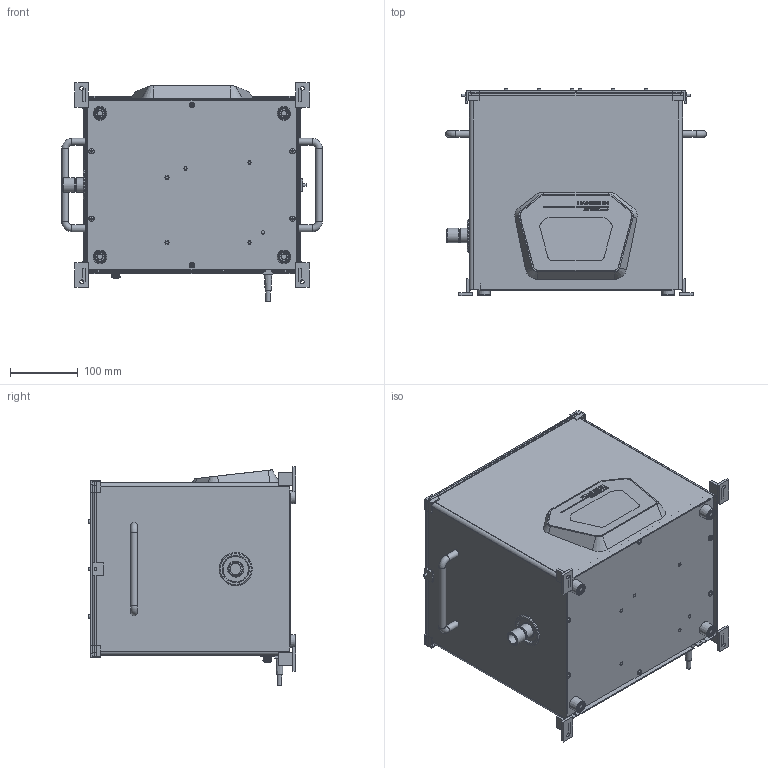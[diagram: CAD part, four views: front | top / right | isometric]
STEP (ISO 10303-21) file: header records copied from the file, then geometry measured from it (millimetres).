
FILE_DESCRIPTION(('Open CASCADE Model'),'2;1');
FILE_NAME('Open CASCADE Shape Model','2026-11-06T02:18:40',('Author'),( 'Open CASCADE'),'Open CASCADE STEP processor 7.8','Open CASCADE 7.8' ,'Unknown');
FILE_SCHEMA(('AUTOMOTIVE_DESIGN { 1 0 10303 214 1 1 1 1 }'));
Length unit declared in the file: millimetre
Products named in the file (44): Sonicator_Two_Racks_Preview_R02; Manufacturer_REFERENCE_shells; Left_independent_top_plate; Left_Guide_01; Left_M3_screw_envelope_00; Left_washer_envelope_00; Left_Guide_02; Left_M3_screw_envelope_01; Left_washer_envelope_01; Left_Guide_03; Left_M3_screw_envelope_02; Left_washer_envelope_02; Left_Guide_04; Left_M3_screw_envelope_03; Left_washer_envelope_03; Left_Rack_REFERENCE_uploaded_r20; Left_locator_-1; Left_locator_1; Left_clamp_pad_CONCEPT; Left_clamp_tab_CONCEPT; Left_clamp_screw_CONCEPT; Right_independent_top_plate; Right_Guide_01; Right_M3_screw_envelope_00; Right_washer_envelope_00; Right_Guide_02; Right_M3_screw_envelope_01; Right_washer_envelope_01; Right_Guide_03; Right_M3_screw_envelope_02; Right_washer_envelope_02; Right_Guide_04; Right_M3_screw_envelope_03; Right_washer_envelope_03; Right_Rack_REFERENCE_uploaded_r20; Right_locator_-1; Right_locator_1; Right_clamp_pad_CONCEPT; Right_clamp_tab_CONCEPT; Right_clamp_screw_CONCEPT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
Assembly tree (43 placements, depth 2):
  Sonicator_Two_Racks_Preview_R02
    Manufacturer_REFERENCE_shells
    Left_independent_top_plate
    Left_Guide_01
    Left_M3_screw_envelope_00
    Left_washer_envelope_00
    Left_Guide_02
    Left_M3_screw_envelope_01
    Left_washer_envelope_01
    Left_Guide_03
    Left_M3_screw_envelope_02
    Left_washer_envelope_02
    Left_Guide_04
    Left_M3_screw_envelope_03
    Left_washer_envelope_03
    Left_Rack_REFERENCE_uploaded_r20
    Left_locator_-1
    Left_locator_1
    Left_clamp_pad_CONCEPT
    Left_clamp_tab_CONCEPT
    Left_clamp_screw_CONCEPT
    Right_independent_top_plate
    Right_Guide_01
    Right_M3_screw_envelope_00
    Right_washer_envelope_00
    Right_Guide_02
    Right_M3_screw_envelope_01
    Right_washer_envelope_01
    Right_Guide_03
    Right_M3_screw_envelope_02
    Right_washer_envelope_02
    Right_Guide_04
    Right_M3_screw_envelope_03
    Right_washer_envelope_03
    Right_Rack_REFERENCE_uploaded_r20
    Right_locator_-1
    Right_locator_1
    Right_clamp_pad_CONCEPT
    Right_clamp_tab_CONCEPT
    Right_clamp_screw_CONCEPT
    Table_stop_CONCEPT_-1_-1
    Table_stop_CONCEPT_-1_1
    Table_stop_CONCEPT_1_-1
    Table_stop_CONCEPT_1_1
Bounding box: 385 x 306.45 x 322.49 mm (x, y, z)
Volume: 516924.2 mm3; surface area: 1374699.8 mm2
Topology: 42 solids, 128 shells, 2986 faces, 9218 edges, 6472 vertices
Faces by surface type: plane 2205, cylinder 609, cone 100, torus 47, bspline 17, sphere 8
Full cylindrical faces by diameter (mm): 2.5 x8, 3 x8, 3.2 x8, 4 x2, 5 x1, 5.5 x12, 6.5 x1, 7 x8, 8 x6, 9 x4, 10 x14, 13 x4, 14 x4, 16.1 x1, 17.6 x32, 18 x32, 18.5 x1, 21.3 x2, 49 x1
Entity records: 230938 total; most frequent: CARTESIAN_POINT 55849, DIRECTION 31770, LINE 21339, VECTOR 21339, ORIENTED_EDGE 16951, PCURVE 16951, DEFINITIONAL_REPRESENTATION 16951, EDGE_CURVE 9218
